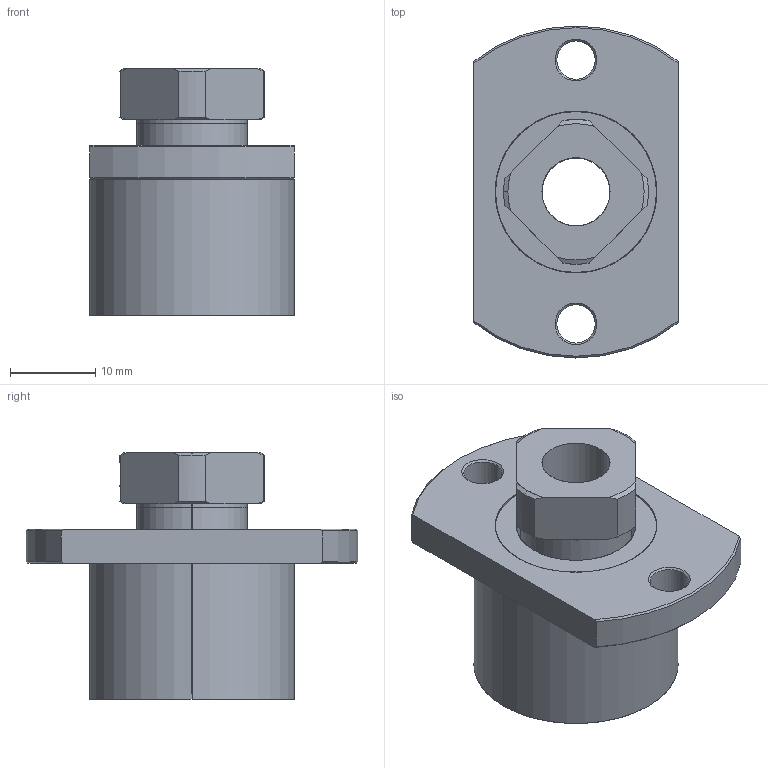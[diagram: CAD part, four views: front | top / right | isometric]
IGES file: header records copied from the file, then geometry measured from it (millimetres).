
Start section: SolidWorks IGES file using analytic representation for surfaces
Bounding box: 24 x 39 x 29 mm (x, y, z)
Surface area: 8191.2 mm2 (no closed solid volume)
Topology: 0 solids, 0 shells, 112 faces, 1600 edges, 1600 vertices
Faces by surface type: revolution 63, bspline 49
